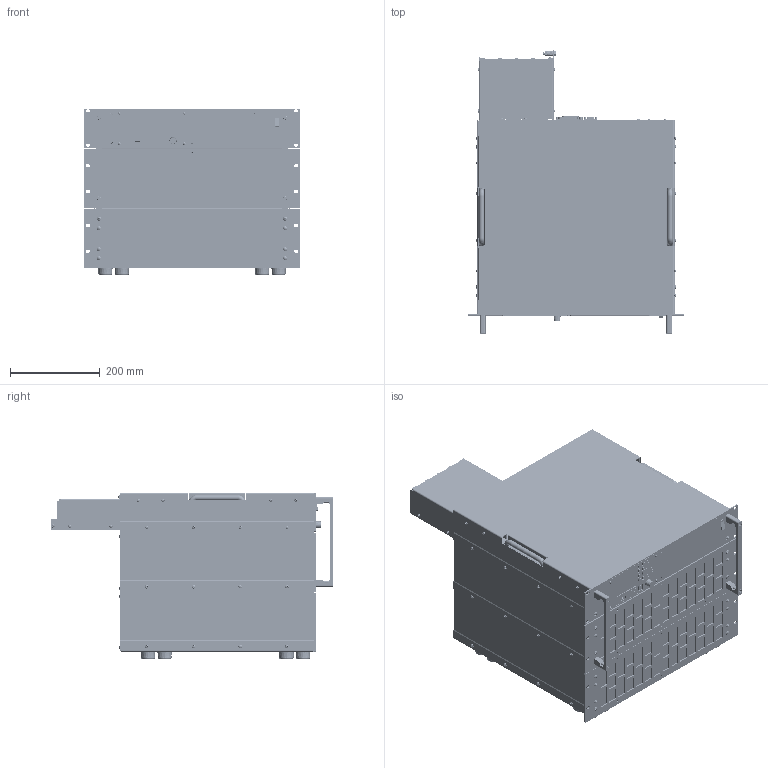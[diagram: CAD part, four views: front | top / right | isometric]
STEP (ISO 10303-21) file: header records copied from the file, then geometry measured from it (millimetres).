
FILE_DESCRIPTION(('STEP AP214'),'1');
FILE_NAME('PLI_M24_19Z_8HE_FKS40_12_SM12_BRB_3D_01.step','2019-02-14T08:38:29',(' '),(' '),'Spatial InterOp 3D',' ',' ');
FILE_SCHEMA(('AUTOMOTIVE_DESIGN { 1 0 10303 214 1 1 1 1 }'));
Length unit declared in the file: millimetre
Products named in the file (1): 1
Bounding box: 482.6 x 631.75 x 372.73 mm (x, y, z)
Volume: 20217243.1 mm3; surface area: 4387230 mm2
Topology: 271 solids, 1226 shells, 17033 faces, 46062 edges, 30817 vertices
Faces by surface type: plane 8626, cone 5108, cylinder 2793, sphere 258, torus 220, bspline 26, extrusion 2
Entity records: 687978 total; most frequent: CARTESIAN_POINT 99863, DIRECTION 98101, ORIENTED_EDGE 84384, EDGE_CURVE 45130, AXIS2_PLACEMENT_3D 34346, VERTEX_POINT 29688, VECTOR 29409, LINE 29407
